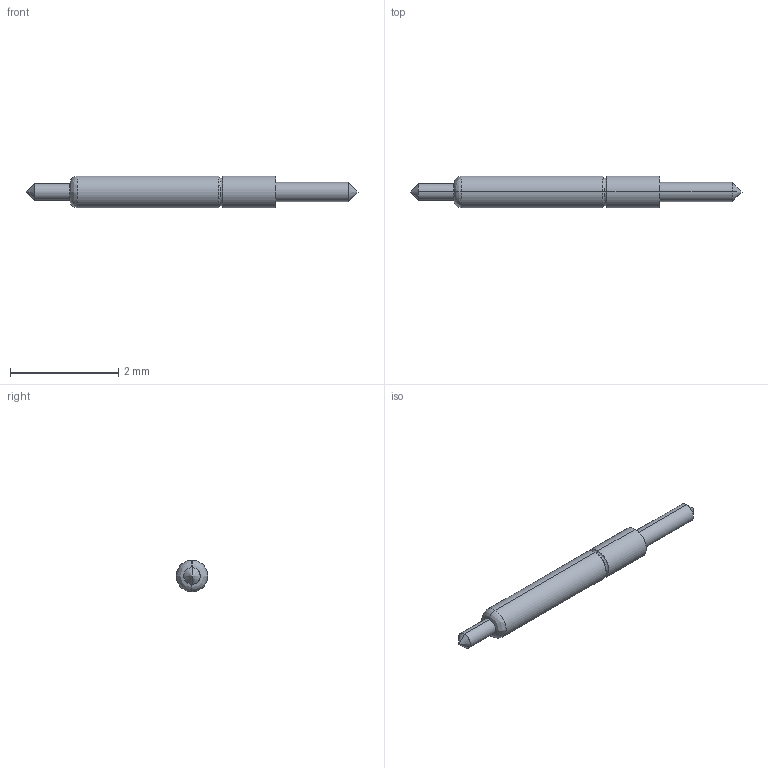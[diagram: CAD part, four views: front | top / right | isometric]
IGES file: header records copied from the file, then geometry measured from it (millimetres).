
Start section: SolidWorks IGES file using analytic representation for surfaces
Global section: file name: Z:\probe solid model mockups\Solidworks models\IGES Files\CSP8-15 IGES files\CSP8-15BB.IGS; native system: SolidWorks 2006 by SolidWorks Corporation; preprocessor: SolidWorks 2006 by SolidWorks Corporation; author: tsakatani; date: 080108.151931; units: inch
Bounding box: 6.15 x 0.58 x 0.58 mm (x, y, z)
Surface area: 9.7 mm2 (no closed solid volume)
Topology: 0 solids, 0 shells, 19 faces, 104 edges, 100 vertices
Faces by surface type: revolution 12, bspline 7
